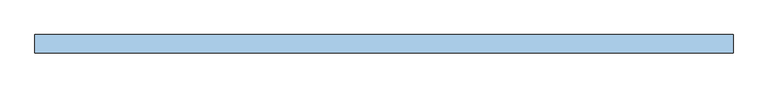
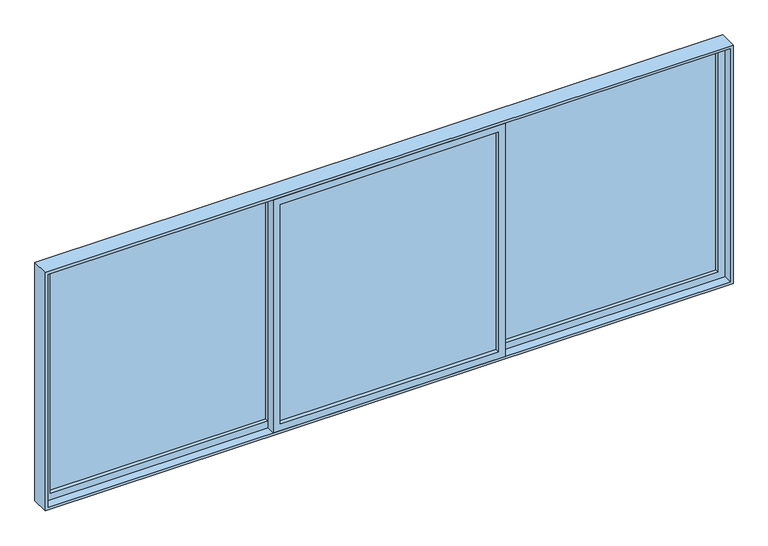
"""IFC4 building model written with IfcOpenShell, lengths in millimetres: window geometry, VENT_ALUM_CORR_3HOJAS_CORRE CENTRAL : V18-VENT_ALUM_CORR_3HOJAS_CORRE CENTRAL."""

import ifcopenshell
import ifcopenshell.guid

model = None  # the IFC model being written
_history = None  # IfcOwnerHistory: only IFC2X3 demands one
_inside = {}  # id of a spatial element -> (the spatial element, [elements in it])
_under = {}  # id of a project, library or spatial element -> (it, [spatial elements below it])
_declared = {}  # id of a project -> (the project, [libraries it declares])
_typed = {}  # id of a type object -> (the type object, [elements of that type])
_made_of = {}  # id of a material, layer set ... -> (it, [elements and type objects made of it])


def new_model(schema):
    """Start an empty IFC model of exactly this schema.

    Asked for "IFC4X3", IfcOpenShell would pick the latest addendum, in which some entities
    have other attributes; the version numbers below select the first issue.
    IFC2X3 requires an IfcOwnerHistory on every rooted entity: one is made here for all.
    """
    global model, _history
    if schema == "IFC4X3":
        model = ifcopenshell.file(schema_version=(4, 3, 0, 0))
    else:
        model = ifcopenshell.file(schema=schema)
    _inside.clear()
    _under.clear()
    _declared.clear()
    _typed.clear()
    _made_of.clear()
    _history = None
    if model.schema == "IFC2X3":
        org = make("IfcOrganization", Name="unknown")
        user = make(
            "IfcPersonAndOrganization",
            ThePerson=make("IfcPerson", FamilyName="unknown"),
            TheOrganization=org,
        )
        app = make(
            "IfcApplication",
            ApplicationDeveloper=org,
            Version="unknown",
            ApplicationFullName="unknown",
            ApplicationIdentifier="unknown",
        )
        _history = make(
            "IfcOwnerHistory",
            OwningUser=user,
            OwningApplication=app,
            ChangeAction="ADDED",
            CreationDate=0,
        )
    return model


def make(cls, **values):
    """One entity of the class cls with the attributes given. An attribute that is None is left unset."""
    return model.create_entity(
        cls, **{name: value for name, value in values.items() if value is not None}
    )


def rooted(cls, **values):
    """An entity with a GlobalId (a new one), such as an element, a storey or a relation."""
    return make(cls, GlobalId=ifcopenshell.guid.new(), OwnerHistory=_history, **values)


def si_unit(unit_type, name, prefix=None):
    """IfcSIUnit, for example si_unit("LENGTHUNIT", "METRE", prefix="MILLI")."""
    return make("IfcSIUnit", UnitType=unit_type, Prefix=prefix, Name=name)


def assignment(units):
    """IfcUnitAssignment: the units of a project."""
    return None if units is None else make("IfcUnitAssignment", Units=units)


def point(xyz):
    """IfcCartesianPoint."""
    return None if xyz is None else make("IfcCartesianPoint", Coordinates=xyz)


def direction(xyz):
    """IfcDirection."""
    return None if xyz is None else make("IfcDirection", DirectionRatios=xyz)


def frame(location, z_axis=None, x_axis=None):
    """IfcAxis2Placement3D, a coordinate frame: its origin and axes. An axis left out is left unset."""
    return make(
        "IfcAxis2Placement3D",
        Location=point(location),
        Axis=direction(z_axis),
        RefDirection=direction(x_axis),
    )


def origin():
    """The frame at (0, 0, 0) with its axes left unset."""
    return frame((0.0, 0.0, 0.0))


def place(relative_to, where):
    """IfcLocalPlacement: puts the frame where relative to a parent placement (None: the world)."""
    return make(
        "IfcLocalPlacement", PlacementRelTo=relative_to, RelativePlacement=where
    )


def context(
    kind, dimensions, precision=None, world=None, true_north=None, identifier=None
):
    """IfcGeometricRepresentationContext, for example the 3D "Model" context."""
    return make(
        "IfcGeometricRepresentationContext",
        ContextIdentifier=identifier,
        ContextType=kind,
        CoordinateSpaceDimension=dimensions,
        Precision=precision,
        WorldCoordinateSystem=world,
        TrueNorth=true_north,
    )


def project(units=None, contexts=None):
    """IfcProject with its units and contexts."""
    return rooted(
        "IfcProject",
        Name="project",
        RepresentationContexts=contexts,
        UnitsInContext=assignment(units),
    )


def spatial(cls, under=None, at=None, **own):
    """A site, building, storey or space (cls), placed at a placement, below another one or the project."""
    s = rooted(cls, ObjectPlacement=at, **own)
    if under is not None:
        _under.setdefault(under.id(), (under, []))[1].append(s)
    return s


def polyline(points):
    """IfcPolyline through the points."""
    return make("IfcPolyline", Points=[point(p) for p in points])


def outline(outer, holes=None, kind="AREA"):
    """IfcArbitraryClosedProfileDef: a profile drawn as a closed curve; with holes, ...WithVoids."""
    if holes is None:
        return make("IfcArbitraryClosedProfileDef", ProfileType=kind, OuterCurve=outer)
    return make(
        "IfcArbitraryProfileDefWithVoids",
        ProfileType=kind,
        OuterCurve=outer,
        InnerCurves=holes,
    )


def extrude(swept, where, along, depth):
    """IfcExtrudedAreaSolid: the profile swept, set in the frame where, extruded along a direction by depth."""
    return make(
        "IfcExtrudedAreaSolid",
        SweptArea=swept,
        Position=where,
        ExtrudedDirection=direction(along),
        Depth=depth,
    )


def shape(context_of_items, identifier, shape_type, items):
    """IfcShapeRepresentation: the items that make up one representation, for example the "Body"."""
    return make(
        "IfcShapeRepresentation",
        ContextOfItems=context_of_items,
        RepresentationIdentifier=identifier,
        RepresentationType=shape_type,
        Items=items,
    )


def source(mapping_origin, context_of_items, identifier, shape_type, items):
    """IfcRepresentationMap: a shape defined once, which mapped items show again and again."""
    return make(
        "IfcRepresentationMap",
        MappingOrigin=mapping_origin,
        MappedRepresentation=shape(context_of_items, identifier, shape_type, items),
    )


def transform(
    local_origin,
    x_axis=None,
    y_axis=None,
    z_axis=None,
    scale=None,
    scale2=None,
    scale3=None,
    uniform=True,
):
    """IfcCartesianTransformationOperator3D, or its non-uniform kind. x_axis, y_axis, z_axis: its Axis1, 2, 3."""
    if uniform:
        return make(
            "IfcCartesianTransformationOperator3D",
            Axis1=direction(x_axis),
            Axis2=direction(y_axis),
            LocalOrigin=point(local_origin),
            Scale=scale,
            Axis3=direction(z_axis),
        )
    return make(
        "IfcCartesianTransformationOperator3DnonUniform",
        Axis1=direction(x_axis),
        Axis2=direction(y_axis),
        LocalOrigin=point(local_origin),
        Scale=scale,
        Axis3=direction(z_axis),
        Scale2=scale2,
        Scale3=scale3,
    )


def mapped(mapping_source, mapping_target):
    """IfcMappedItem: shows the shape of a source again, moved by a transform."""
    return make(
        "IfcMappedItem", MappingSource=mapping_source, MappingTarget=mapping_target
    )


def made_of(thing, what):
    """Note that an element or type object is made of a material, layer set ...; save() writes the relation."""
    if what is not None:
        _made_of.setdefault(what.id(), (what, []))[1].append(thing)
    return thing


def element(
    cls,
    number,
    at=None,
    inside=None,
    cuts=None,
    type_object=None,
    material=None,
    context=None,
    identifier="Body",
    shape_type=None,
    held_by="IfcProductDefinitionShape",
    body=None,
    shapes=None,
    **own,
):
    """One element of the class cls, such as IfcWall. Its Tag is "e" and its number.

    at: its placement. inside: the storey or other place that contains it. cuts: it is an
    opening in that element (IfcRelVoidsElement). A single representation is given by context,
    identifier, shape_type and body (its items); several are given by shapes. held_by: the class
    of the entity that holds the representations. save() writes the other relations.
    """
    e = rooted(cls, Tag="e%d" % number, ObjectPlacement=at, **own)
    if body is not None:
        shapes = [shape(context, identifier, shape_type, body)]
    if shapes is not None:
        e.Representation = make(held_by, Representations=shapes)
    if inside is not None:
        _inside.setdefault(inside.id(), (inside, []))[1].append(e)
    if cuts is not None:
        rooted(
            "IfcRelVoidsElement", RelatingBuildingElement=cuts, RelatedOpeningElement=e
        )
    if type_object is not None:
        _typed.setdefault(type_object.id(), (type_object, []))[1].append(e)
    return made_of(e, material)


def aggregate(whole, parts):
    """IfcRelAggregates: a whole, such as a stair, and the parts it consists of."""
    return rooted("IfcRelAggregates", RelatingObject=whole, RelatedObjects=parts)


def save(model, path):
    """Write the relations noted so far, then the file.

    IfcRelAggregates (storeys below a building ...), IfcRelContainedInSpatialStructure (elements
    in a storey), IfcRelDefinesByType, IfcRelAssociatesMaterial and IfcRelDeclares: one each for
    every whole, place, type object, material and project.
    """
    for whole, parts in _under.values():
        aggregate(whole, parts)
    for where, things in _inside.values():
        rooted(
            "IfcRelContainedInSpatialStructure",
            RelatedElements=things,
            RelatingStructure=where,
        )
    for kind, things in _typed.values():
        rooted("IfcRelDefinesByType", RelatedObjects=things, RelatingType=kind)
    for what, things in _made_of.values():
        rooted("IfcRelAssociatesMaterial", RelatedObjects=things, RelatingMaterial=what)
    for by, libraries in _declared.values():
        rooted("IfcRelDeclares", RelatingContext=by, RelatedDefinitions=libraries)
    model.write(path)


def window_9cd2920f(model_context):
    return source(origin(), model_context, "Body", "SweptSolid", [
        extrude(outline(polyline([(-1855.0, 28.0), (-645.0, 28.0), (-645.0, 22.0), (-1855.0, 22.0), (-1855.0, 28.0)])), frame((0.0, 0.0, 855.0), z_axis=(0.0, 0.0, 1.0), x_axis=(1.0, 0.0, 0.0)), (0.0, 0.0, 1.0), 1290.0),
        extrude(outline(polyline([(-605.0, -22.0), (605.0, -22.0), (605.0, -28.0), (-605.0, -28.0), (-605.0, -22.0)])), frame((0.0, 0.0, 855.0), z_axis=(0.0, 0.0, 1.0), x_axis=(1.0, 0.0, 0.0)), (0.0, 0.0, 1.0), 1290.0),
        extrude(outline(polyline([(645.0, 28.0), (1855.0, 28.0), (1855.0, 22.0), (645.0, 22.0), (645.0, 28.0)])), frame((0.0, 0.0, 855.0), z_axis=(0.0, 0.0, 1.0), x_axis=(1.0, 0.0, 0.0)), (0.0, 0.0, 1.0), 1290.0),
        extrude(outline(polyline([(815.0, -1895.0), (815.0, -605.0), (2185.0, -605.0), (2185.0, -1895.0), (815.0, -1895.0)]), holes=[polyline([(2145.0, -1855.0), (2145.0, -645.0), (855.0, -645.0), (855.0, -1855.0), (2145.0, -1855.0)])]), frame((0.0, 0.0, 0.0), z_axis=(0.0, 1.0, 0.0), x_axis=(0.0, 0.0, 1.0)), (0.0, 0.0, 1.0), 50.0),
        extrude(outline(polyline([(815.0, -645.0), (815.0, 645.0), (2185.0, 645.0), (2185.0, -645.0), (815.0, -645.0)]), holes=[polyline([(2145.0, -605.0), (2145.0, 605.0), (855.0, 605.0), (855.0, -605.0), (2145.0, -605.0)])]), frame((0.0, -50.0, 0.0), z_axis=(0.0, 1.0, 0.0), x_axis=(0.0, 0.0, 1.0)), (0.0, 0.0, 1.0), 50.0),
        extrude(outline(polyline([(815.0, 605.0), (815.0, 1895.0), (2185.0, 1895.0), (2185.0, 605.0), (815.0, 605.0)]), holes=[polyline([(2145.0, 645.0), (2145.0, 1855.0), (855.0, 1855.0), (855.0, 645.0), (2145.0, 645.0)])]), frame((0.0, 0.0, 0.0), z_axis=(0.0, 1.0, 0.0), x_axis=(0.0, 0.0, 1.0)), (0.0, 0.0, 1.0), 50.0),
        extrude(outline(polyline([(800.0, -1910.0), (800.0, 1910.0), (2200.0, 1910.0), (2200.0, -1910.0), (800.0, -1910.0)]), holes=[polyline([(2185.0, -1895.0), (2185.0, 1895.0), (815.0, 1895.0), (815.0, -1895.0), (2185.0, -1895.0)])]), frame((0.0, -50.0, 0.0), z_axis=(0.0, 1.0, 0.0), x_axis=(0.0, 0.0, 1.0)), (0.0, 0.0, 1.0), 100.0),
    ])


if __name__ == "__main__":
    model = new_model("IFC4")
    model_context = context("Model", 3, world=origin())
    ifc_project = project(units=[si_unit("LENGTHUNIT", "METRE", prefix="MILLI")], contexts=[model_context])
    site = spatial("IfcSite", under=ifc_project)
    building = spatial("IfcBuilding", under=site)
    placement = place(None, origin())
    window_shape = window_9cd2920f(model_context)
    element("IfcWindow", 1, ObjectType="VENT_ALUM_CORR_3HOJAS_CORRE CENTRAL : V18-VENT_ALUM_CORR_3HOJAS_CORRE CENTRAL", at=placement, inside=building, context=model_context, shape_type="MappedRepresentation", body=[
        mapped(window_shape, transform((0.0, 0.0, 0.0), x_axis=(1.0, 0.0, 0.0), y_axis=(0.0, 1.0, 0.0), z_axis=(0.0, 0.0, 1.0))),
    ])
    save(model, "model.ifc")
